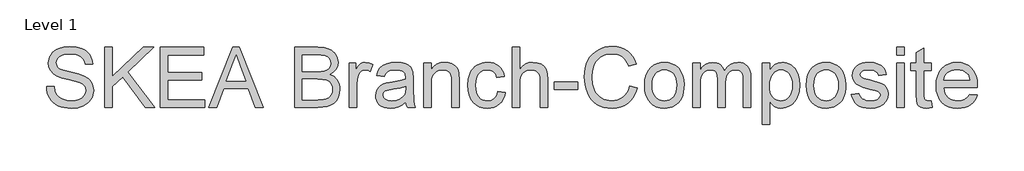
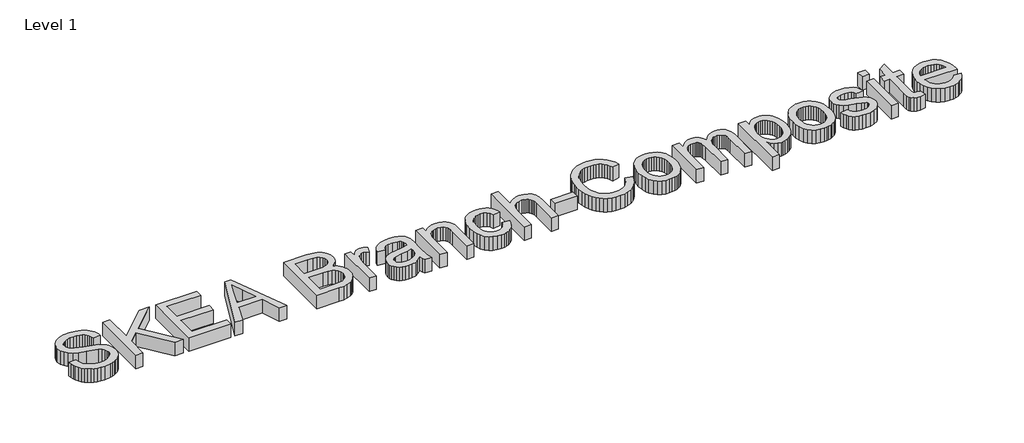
# One storey, part 9 of 29: 1 proxy.
"""IFC4 building model written with IfcOpenShell, lengths in millimetres."""

import ifcopenshell
import ifcopenshell.guid

model = None  # the IFC model being written
_history = None  # IfcOwnerHistory: only IFC2X3 demands one
_inside = {}  # id of a spatial element -> (the spatial element, [elements in it])
_under = {}  # id of a project, library or spatial element -> (it, [spatial elements below it])
_declared = {}  # id of a project -> (the project, [libraries it declares])
_typed = {}  # id of a type object -> (the type object, [elements of that type])
_made_of = {}  # id of a material, layer set ... -> (it, [elements and type objects made of it])


def new_model(schema):
    """Start an empty IFC model of exactly this schema.

    Asked for "IFC4X3", IfcOpenShell would pick the latest addendum, in which some entities
    have other attributes; the version numbers below select the first issue.
    IFC2X3 requires an IfcOwnerHistory on every rooted entity: one is made here for all.
    """
    global model, _history
    if schema == "IFC4X3":
        model = ifcopenshell.file(schema_version=(4, 3, 0, 0))
    else:
        model = ifcopenshell.file(schema=schema)
    _inside.clear()
    _under.clear()
    _declared.clear()
    _typed.clear()
    _made_of.clear()
    _history = None
    if model.schema == "IFC2X3":
        org = make("IfcOrganization", Name="unknown")
        user = make(
            "IfcPersonAndOrganization",
            ThePerson=make("IfcPerson", FamilyName="unknown"),
            TheOrganization=org,
        )
        app = make(
            "IfcApplication",
            ApplicationDeveloper=org,
            Version="unknown",
            ApplicationFullName="unknown",
            ApplicationIdentifier="unknown",
        )
        _history = make(
            "IfcOwnerHistory",
            OwningUser=user,
            OwningApplication=app,
            ChangeAction="ADDED",
            CreationDate=0,
        )
    return model


def make(cls, **values):
    """One entity of the class cls with the attributes given. An attribute that is None is left unset."""
    return model.create_entity(
        cls, **{name: value for name, value in values.items() if value is not None}
    )


def rooted(cls, **values):
    """An entity with a GlobalId (a new one), such as an element, a storey or a relation."""
    return make(cls, GlobalId=ifcopenshell.guid.new(), OwnerHistory=_history, **values)


def si_unit(unit_type, name, prefix=None):
    """IfcSIUnit, for example si_unit("LENGTHUNIT", "METRE", prefix="MILLI")."""
    return make("IfcSIUnit", UnitType=unit_type, Prefix=prefix, Name=name)


def assignment(units):
    """IfcUnitAssignment: the units of a project."""
    return None if units is None else make("IfcUnitAssignment", Units=units)


def point(xyz):
    """IfcCartesianPoint."""
    return None if xyz is None else make("IfcCartesianPoint", Coordinates=xyz)


def direction(xyz):
    """IfcDirection."""
    return None if xyz is None else make("IfcDirection", DirectionRatios=xyz)


def frame(location, z_axis=None, x_axis=None):
    """IfcAxis2Placement3D, a coordinate frame: its origin and axes. An axis left out is left unset."""
    return make(
        "IfcAxis2Placement3D",
        Location=point(location),
        Axis=direction(z_axis),
        RefDirection=direction(x_axis),
    )


def origin():
    """The frame at (0, 0, 0) with its axes left unset."""
    return frame((0.0, 0.0, 0.0))


def origin_with_axes():
    """The frame at (0, 0, 0) with the z axis (0, 0, 1) and the x axis (1, 0, 0) written out."""
    return frame((0.0, 0.0, 0.0), z_axis=(0.0, 0.0, 1.0), x_axis=(1.0, 0.0, 0.0))


def place(relative_to, where):
    """IfcLocalPlacement: puts the frame where relative to a parent placement (None: the world)."""
    return make(
        "IfcLocalPlacement", PlacementRelTo=relative_to, RelativePlacement=where
    )


def context(
    kind, dimensions, precision=None, world=None, true_north=None, identifier=None
):
    """IfcGeometricRepresentationContext, for example the 3D "Model" context."""
    return make(
        "IfcGeometricRepresentationContext",
        ContextIdentifier=identifier,
        ContextType=kind,
        CoordinateSpaceDimension=dimensions,
        Precision=precision,
        WorldCoordinateSystem=world,
        TrueNorth=true_north,
    )


def project(units=None, contexts=None):
    """IfcProject with its units and contexts."""
    return rooted(
        "IfcProject",
        Name="project",
        RepresentationContexts=contexts,
        UnitsInContext=assignment(units),
    )


def spatial(cls, under=None, at=None, **own):
    """A site, building, storey or space (cls), placed at a placement, below another one or the project."""
    s = rooted(cls, ObjectPlacement=at, **own)
    if under is not None:
        _under.setdefault(under.id(), (under, []))[1].append(s)
    return s


def polyline(points):
    """IfcPolyline through the points."""
    return make("IfcPolyline", Points=[point(p) for p in points])


def outline(outer, holes=None, kind="AREA"):
    """IfcArbitraryClosedProfileDef: a profile drawn as a closed curve; with holes, ...WithVoids."""
    if holes is None:
        return make("IfcArbitraryClosedProfileDef", ProfileType=kind, OuterCurve=outer)
    return make(
        "IfcArbitraryProfileDefWithVoids",
        ProfileType=kind,
        OuterCurve=outer,
        InnerCurves=holes,
    )


def extrude(swept, where, along, depth):
    """IfcExtrudedAreaSolid: the profile swept, set in the frame where, extruded along a direction by depth."""
    return make(
        "IfcExtrudedAreaSolid",
        SweptArea=swept,
        Position=where,
        ExtrudedDirection=direction(along),
        Depth=depth,
    )


def shape(context_of_items, identifier, shape_type, items):
    """IfcShapeRepresentation: the items that make up one representation, for example the "Body"."""
    return make(
        "IfcShapeRepresentation",
        ContextOfItems=context_of_items,
        RepresentationIdentifier=identifier,
        RepresentationType=shape_type,
        Items=items,
    )


def made_of(thing, what):
    """Note that an element or type object is made of a material, layer set ...; save() writes the relation."""
    if what is not None:
        _made_of.setdefault(what.id(), (what, []))[1].append(thing)
    return thing


def element(
    cls,
    number,
    at=None,
    inside=None,
    cuts=None,
    type_object=None,
    material=None,
    context=None,
    identifier="Body",
    shape_type=None,
    held_by="IfcProductDefinitionShape",
    body=None,
    shapes=None,
    **own,
):
    """One element of the class cls, such as IfcWall. Its Tag is "e" and its number.

    at: its placement. inside: the storey or other place that contains it. cuts: it is an
    opening in that element (IfcRelVoidsElement). A single representation is given by context,
    identifier, shape_type and body (its items); several are given by shapes. held_by: the class
    of the entity that holds the representations. save() writes the other relations.
    """
    e = rooted(cls, Tag="e%d" % number, ObjectPlacement=at, **own)
    if body is not None:
        shapes = [shape(context, identifier, shape_type, body)]
    if shapes is not None:
        e.Representation = make(held_by, Representations=shapes)
    if inside is not None:
        _inside.setdefault(inside.id(), (inside, []))[1].append(e)
    if cuts is not None:
        rooted(
            "IfcRelVoidsElement", RelatingBuildingElement=cuts, RelatedOpeningElement=e
        )
    if type_object is not None:
        _typed.setdefault(type_object.id(), (type_object, []))[1].append(e)
    return made_of(e, material)


def aggregate(whole, parts):
    """IfcRelAggregates: a whole, such as a stair, and the parts it consists of."""
    return rooted("IfcRelAggregates", RelatingObject=whole, RelatedObjects=parts)


def save(model, path):
    """Write the relations noted so far, then the file.

    IfcRelAggregates (storeys below a building ...), IfcRelContainedInSpatialStructure (elements
    in a storey), IfcRelDefinesByType, IfcRelAssociatesMaterial and IfcRelDeclares: one each for
    every whole, place, type object, material and project.
    """
    for whole, parts in _under.values():
        aggregate(whole, parts)
    for where, things in _inside.values():
        rooted(
            "IfcRelContainedInSpatialStructure",
            RelatedElements=things,
            RelatingStructure=where,
        )
    for kind, things in _typed.values():
        rooted("IfcRelDefinesByType", RelatedObjects=things, RelatingType=kind)
    for what, things in _made_of.values():
        rooted("IfcRelAssociatesMaterial", RelatedObjects=things, RelatingMaterial=what)
    for by, libraries in _declared.values():
        rooted("IfcRelDeclares", RelatingContext=by, RelatedDefinitions=libraries)
    model.write(path)


model = new_model("IFC4")

# Units and contexts
model_context = context("Model", 3, world=origin())
ifc_project = project(units=[si_unit("LENGTHUNIT", "METRE", prefix="MILLI")], contexts=[model_context])

# Site, building, storey
site = spatial("IfcSite", under=ifc_project)
building = spatial("IfcBuilding", under=site)
storey = spatial("IfcBuildingStorey", under=building, Name="Level 1", Elevation=0.0)

# Proxy
placement = place(None, origin())
element("IfcBuildingElementProxy", 1, Name="600mm Arial", ObjectType="600mm Arial", at=placement, inside=storey, context=model_context, shape_type="SweptSolid", body=[
    extrude(outline(polyline([(-4149.899531, -20145.9024363), (-4074.5572984, -20145.9024363), (-4065.9120715, -20187.7122251), (-4050.2770867, -20221.3182453), (-4025.8865105, -20247.98969), (-3990.9745091, -20268.9957519), (-3948.3001977, -20282.6257798), (-3900.6226911, -20287.1691225), (-3858.6473554, -20283.7294258), (-3821.8959441, -20273.4103358), (-3792.1158966, -20257.0763753), (-3771.0546524, -20235.5920667), (-3758.5282705, -20210.925579), (-3754.3528098, -20185.0450806), (-3757.4798068, -20159.8267698), (-3766.8607977, -20138.0297616), (-3785.917085, -20119.4333268), (-3818.0699714, -20103.8167361), (-3927.7723823, -20075.048364), (-3999.7852829, -20056.0104708), (-4045.8625028, -20037.8922825), (-4083.3680722, -20012.5452131), (-4109.9475464, -19981.8270665), (-4125.7848662, -19946.4000303), (-4131.0639729, -19906.9262922), (-4129.4314965, -19884.4900891), (-4124.5340675, -19862.7988469), (-4116.3716857, -19841.8525658), (-4104.9443512, -19821.6512458), (-4090.3808227, -19803.0180227), (-4072.8098589, -19786.7760326), (-4052.2314598, -19772.9252755), (-4028.6456254, -19761.4657514), (-3975.6338299, -19746.0698899), (-3916.9566517, -19740.937936), (-3853.3866429, -19746.3090131), (-3797.7628852, -19762.4222445), (-3773.4274913, -19774.4243946), (-3752.0719414, -19788.9465364), (-3733.6962358, -19805.9886698), (-3718.3003743, -19825.5507949), (-3706.0039186, -19847.0626946), (-3696.9264304, -19869.9541517), (-3691.0679096, -19894.2251664), (-3688.4283563, -19919.8757385), (-3763.7705889, -19919.8757385), (-3768.8105722, -19895.8346501), (-3777.6029519, -19874.9205587), (-3790.1477279, -19857.1334642), (-3806.4449003, -19842.4733667), (-3826.7979717, -19831.0138425), (-3851.5104447, -19822.8284681), (-3880.5823194, -19817.9172435), (-3914.0135957, -19816.2801686), (-3948.5117298, -19817.8988494), (-3977.9882747, -19822.7548917), (-4002.4432303, -19830.8482956), (-4021.8765967, -19842.1790611), (-4036.683847, -19855.799892), (-4047.2604544, -19870.7634921), (-4053.6064188, -19887.0698616), (-4055.7217403, -19904.7190003), (-4054.2226211, -19919.9033296), (-4049.7252637, -19933.6713133), (-4042.2296681, -19946.0229513), (-4031.7358342, -19956.9582436), (-4015.2179326, -19967.3141218), (-3989.2086755, -19977.7803645), (-3908.716095, -19999.0439438), (-3825.6483405, -20019.2406654), (-3775.3956599, -20036.8622129), (-3732.445437, -20064.1958452), (-3715.8401634, -20080.2630913), (-3702.4814485, -20097.9306241), (-3692.2129423, -20117.1064731), (-3684.878295, -20137.6986678), (-3679.0105772, -20183.1320942), (-3680.6982359, -20206.6995345), (-3685.7612118, -20229.5771961), (-3694.1995051, -20251.7650789), (-3706.0131156, -20273.263183), (-3720.9951099, -20293.2391754), (-3738.9385542, -20310.8607229), (-3759.8434486, -20326.1278257), (-3783.709793, -20339.0404838), (-3809.8432103, -20349.30899), (-3837.549323, -20356.6436372), (-3897.6796351, -20362.5113551), (-3936.2198727, -20360.9294625), (-3971.4951575, -20356.1837848), (-4003.5054896, -20348.2743219), (-4032.250869, -20337.2010738), (-4057.9060396, -20322.9456465), (-4080.6457454, -20305.4896458), (-4100.4699865, -20284.8330718), (-4117.3787627, -20260.9759244), (-4130.9995935, -20234.6907558), (-4140.9599985, -20206.7501183), (-4147.2599777, -20177.1540118), (-4149.899531, -20145.9024363)])), origin_with_axes(), (0.0, 0.0, 1.0), 150.0),
    extrude(outline(polyline([(-3565.9972283, -20353.093576), (-3565.9972283, -19750.3557151), (-3490.6549957, -19750.3557151), (-3490.6549957, -20045.3970752), (-3181.6341197, -19750.3557151), (-3076.2727163, -19750.3557151), (-3335.7030993, -19998.161027), (-3066.8549372, -20353.093576), (-3158.9725888, -20353.093576), (-3389.119565, -20049.0758952), (-3490.6549957, -20145.9024363), (-3490.6549957, -20353.093576), (-3565.9972283, -20353.093576)])), origin_with_axes(), (0.0, 0.0, 1.0), 150.0),
    extrude(outline(polyline([(-3010.3482628, -20353.093576), (-3010.3482628, -19750.3557151), (-2577.1304253, -19750.3557151), (-2577.1304253, -19825.6979477), (-2935.0060302, -19825.6979477), (-2935.0060302, -20004.6357502), (-2595.9659834, -20004.6357502), (-2595.9659834, -20079.9779828), (-2935.0060302, -20079.9779828), (-2935.0060302, -20277.7513434), (-2567.7126462, -20277.7513434), (-2567.7126462, -20353.093576), (-3010.3482628, -20353.093576)])), origin_with_axes(), (0.0, 0.0, 1.0), 150.0),
    extrude(outline(polyline([(-2524.8911819, -20353.093576), (-2284.2963571, -19750.3557151), (-2220.1377371, -19750.3557151), (-1979.5429123, -20353.093576), (-2059.152576, -20353.093576), (-2128.1672383, -20164.7379945), (-2376.4140087, -20164.7379945), (-2445.2815182, -20353.093576), (-2524.8911819, -20353.093576)]), holes=[polyline([(-2348.7492826, -20089.3957619), (-2155.6848116, -20089.3957619), (-2209.9841941, -19941.2128942), (-2252.2170471, -19825.6979477), (-2289.7410106, -19928.263448), (-2348.7492826, -20089.3957619)])]), origin_with_axes(), (0.0, 0.0, 1.0), 150.0),
    extrude(outline(polyline([(-1663.6058548, -20353.093576), (-1663.6058548, -19750.3557151), (-1433.6060314, -19750.3557151), (-1370.3487224, -19754.7886931), (-1320.9605645, -19768.0876273), (-1300.8834046, -19778.1446013), (-1283.1055072, -19790.5836113), (-1267.6268723, -19805.4046571), (-1254.4474998, -19822.6077389), (-1236.4028879, -19860.2788553), (-1230.3880173, -19899.7158051), (-1235.4463947, -19936.007364), (-1250.621527, -19970.128419), (-1276.0237788, -19999.9820429), (-1311.7635146, -20023.4713083), (-1289.0238088, -20033.1649989), (-1269.0708091, -20045.7649572), (-1251.9045155, -20061.2711833), (-1237.524928, -20079.6836772), (-1226.1619729, -20100.4414188), (-1218.0455764, -20122.983388), (-1213.1757385, -20147.3095849), (-1211.5524592, -20173.4200095), (-1215.9854372, -20215.4505275), (-1229.2843713, -20254.4276249), (-1249.131605, -20287.5737927), (-1273.2094815, -20312.1115217), (-1302.6952235, -20329.8802221), (-1338.7660531, -20342.7193037), (-1382.5991928, -20350.5000079), (-1435.371865, -20353.093576), (-1663.6058548, -20353.093576)]), holes=[polyline([(-1588.2636222, -20277.7513434), (-1433.7531842, -20277.7513434), (-1377.835121, -20274.8082874), (-1351.8810462, -20268.278382), (-1330.5254964, -20258.4007504), (-1313.1614662, -20244.2556877), (-1299.1819504, -20224.9234889), (-1289.9665064, -20201.2686766), (-1286.8946918, -20174.1557735), (-1290.4999353, -20142.6650748), (-1301.315666, -20115.5889599), (-1320.2064064, -20094.4173511), (-1348.0366794, -20080.6401704), (-1387.4552351, -20073.0801954), (-1441.1108241, -20070.5602037), (-1588.2636222, -20070.5602037), (-1588.2636222, -20277.7513434)]), polyline([(-1588.2636222, -19995.2179711), (-1450.675756, -19995.2179711), (-1402.556791, -19993.5992903), (-1370.3303283, -19988.743248), (-1342.2057497, -19977.5780294), (-1321.9906341, -19960.8577927), (-1309.795346, -19938.8400553), (-1305.7302499, -19911.7823346), (-1309.5194345, -19885.5155601), (-1320.8869881, -19862.6333), (-1339.3178761, -19844.7726292), (-1364.2970636, -19833.5706224), (-1402.6303674, -19827.6661164), (-1461.1236047, -19825.6979477), (-1588.2636222, -19825.6979477), (-1588.2636222, -19995.2179711)])]), origin_with_axes(), (0.0, 0.0, 1.0), 150.0),
    extrude(outline(polyline([(-1117.3746684, -20353.093576), (-1117.3746684, -19910.4579594), (-1051.4502149, -19910.4579594), (-1051.4502149, -19975.9409545), (-1027.0964268, -19937.9755326), (-1004.6556251, -19915.6083073), (-982.141247, -19904.6822121), (-957.5667297, -19901.0401803), (-920.0427662, -19906.8527158), (-881.9301915, -19924.2903224), (-907.0933199, -19991.8334567), (-933.5808236, -19980.2451739), (-960.0683273, -19976.3824129), (-982.5643113, -19980.0980211), (-1002.6690623, -19991.2448455), (-1018.9110524, -20008.9767577), (-1029.8187535, -20032.447629), (-1038.9790152, -20074.5333292), (-1042.0324358, -20120.4450022), (-1042.0324358, -20353.093576), (-1117.3746684, -20353.093576)])), origin_with_axes(), (0.0, 0.0, 1.0), 150.0),
    extrude(outline(polyline([(-552.3079238, -20296.5869015), (-588.305177, -20327.4522009), (-625.369288, -20347.6489225), (-664.3463854, -20358.7957469), (-706.0825978, -20362.5113551), (-739.6288372, -20360.2764719), (-769.0456013, -20353.5718226), (-794.3328899, -20342.397407), (-815.4907031, -20326.7532251), (-832.1971443, -20307.6325584), (-844.1303165, -20286.0286883), (-851.2902198, -20261.9416146), (-853.6768542, -20235.3713375), (-850.0716107, -20204.1381561), (-839.25588, -20175.7744543), (-822.5724316, -20151.4942426), (-801.3640345, -20132.5115317), (-776.4400294, -20118.1641339), (-748.6097564, -20107.7898616), (-683.4210669, -20096.4590962), (-606.3865771, -20084.5397195), (-552.7493822, -20070.5602037), (-552.3079238, -20053.7847847), (-557.4950599, -20020.1603704), (-563.9789801, -20007.7075648), (-573.0564683, -19998.161027), (-588.7466354, -19988.6328834), (-607.8581051, -19981.8270665), (-656.344952, -19976.3824129), (-701.2265554, -19980.0060506), (-732.5701014, -19990.8769635), (-753.9440454, -20010.9817146), (-768.9168426, -20042.3068665), (-844.2590752, -20032.8890874), (-831.1808702, -19991.6863039), (-811.6647304, -19959.3126884), (-783.8896398, -19934.5542301), (-746.0345825, -19916.1969185), (-699.7366334, -19904.8293649), (-646.6328674, -19901.0401803), (-595.6996051, -19904.3879065), (-555.3245562, -19914.4310849), (-524.8823211, -19929.5326408), (-503.7475004, -19948.0554993), (-489.7311964, -19970.9561535), (-480.6445111, -19999.1910966), (-476.9656912, -20065.1155502), (-476.9656912, -20158.8518825), (-473.1397184, -20289.7442964), (-467.4743357, -20322.0995179), (-458.130133, -20353.093576), (-533.4723656, -20353.093576), (-545.5388951, -20326.9003779), (-552.3079238, -20296.5869015)]), holes=[polyline([(-552.3079238, -20145.9024363), (-602.9284863, -20158.4472123), (-673.856135, -20169.0054256), (-738.6769426, -20181.2191078), (-755.544332, -20189.5700291), (-768.0339258, -20201.0847356), (-775.7594477, -20214.8803104), (-778.3346216, -20230.0738368), (-772.7244212, -20252.4778503), (-755.8938199, -20270.8351619), (-728.2106998, -20283.0856323), (-690.0429428, -20287.1691225), (-649.5759233, -20282.662568), (-613.8177934, -20269.1429047), (-584.8286922, -20249.2220947), (-564.6687588, -20225.5121001), (-555.7292264, -20201.0847356), (-552.7493822, -20167.239592), (-552.3079238, -20145.9024363)])]), origin_with_axes(), (0.0, 0.0, 1.0), 150.0),
    extrude(outline(polyline([(-373.3701213, -20353.093576), (-373.3701213, -19910.4579594), (-298.0278887, -19910.4579594), (-298.0278887, -19972.2621346), (-271.8530848, -19941.1025296), (-240.4175683, -19918.8456689), (-203.7213393, -19905.4915525), (-161.7643977, -19901.0401803), (-124.6267103, -19904.6270298), (-90.6160199, -19915.3875781), (-62.252318, -19931.9790561), (-42.0555965, -19953.0586944), (-28.3519922, -19978.5713108), (-19.467642, -20008.4617229), (-15.4945164, -20081.302358), (-15.4945164, -20353.093576), (-90.836749, -20353.093576), (-90.836749, -20091.455901), (-93.0072528, -20052.4971977), (-99.5187641, -20024.7956835), (-111.5301113, -20004.9484499), (-130.2001225, -19989.5525884), (-154.1308463, -19979.6749568), (-181.9243311, -19976.3824129), (-204.8019926, -19978.23102), (-226.0517764, -19983.776841), (-245.6736823, -19993.0198762), (-263.6677104, -20005.9601253), (-278.7002884, -20024.0691166), (-289.4378441, -20048.8183778), (-295.8803776, -20080.207909), (-298.0278887, -20118.2377103), (-298.0278887, -20353.093576), (-373.3701213, -20353.093576)])), origin_with_axes(), (0.0, 0.0, 1.0), 150.0),
    extrude(outline(polyline([(370.6344257, -20192.9913317), (445.9766583, -20202.4091108), (437.7820869, -20237.9603071), (424.9705964, -20269.4188162), (407.5421869, -20296.7846381), (385.4968583, -20320.0577728), (359.7635127, -20338.6312151), (331.2710522, -20351.8979595), (300.0194767, -20359.8580062), (266.0087863, -20362.5113551), (223.7529406, -20358.8095425), (185.8656936, -20347.7041048), (152.3470453, -20329.1950419), (123.1969957, -20303.2823538), (99.6019643, -20270.4534843), (82.7483704, -20231.1958769), (72.636214, -20185.5095316), (69.2654953, -20133.3944485), (75.0228485, -20066.3479549), (82.21954, -20036.1770327), (92.2949082, -20008.2409937), (105.3179308, -19983.1008579), (121.3575858, -19961.3176452), (140.4138731, -19942.8913558), (162.4867928, -19927.8219896), (186.578465, -19916.104948), (211.6910097, -19907.7356326), (237.8244269, -19902.7140434), (264.9787167, -19901.0401803), (298.4053945, -19903.3394428), (328.640696, -19910.2372302), (355.6846211, -19921.7335425), (379.53717, -19937.8283798), (399.7936723, -19958.1538601), (416.049458, -19982.3421013), (428.304527, -20010.3931034), (436.5588792, -20042.3068665), (361.2166466, -20051.7246455), (347.5498305, -20018.8543893), (326.2678571, -19995.2915475), (298.5479487, -19981.1096966), (265.5673279, -19976.3824129), (239.9673395, -19978.7092666), (216.8781458, -19985.6898274), (196.2997467, -19997.3240955), (178.2321422, -20013.6120708), (163.5214609, -20034.9308325), (153.0138315, -20061.6574594), (146.7092538, -20093.7919517), (144.6077279, -20131.3343093), (146.6632685, -20169.4422855), (152.8298905, -20201.9492583), (163.1075937, -20228.8552277), (177.4963782, -20250.1601937), (195.2052978, -20266.3516001), (215.443406, -20277.9168903), (238.210703, -20284.8560644), (263.5071887, -20287.1691225), (302.5210743, -20281.3933751), (319.3930623, -20274.173691), (334.5084138, -20264.0661332), (347.4440644, -20250.9603371), (357.77695, -20234.7459381), (365.5070704, -20215.4229363), (370.6344257, -20192.9913317)])), origin_with_axes(), (0.0, 0.0, 1.0), 150.0),
    extrude(outline(polyline([(511.9011119, -20353.093576), (511.9011119, -19750.3557151), (587.2433445, -19750.3557151), (587.2433445, -19971.967829), (614.9172675, -19940.9369827), (645.9940991, -19918.7720925), (680.4738391, -19905.4731584), (718.3564875, -19901.0401803), (763.8634903, -19905.8778286), (802.9693464, -19920.3907733), (833.7610694, -19943.4385803), (854.325673, -19973.8808154), (865.9139558, -20015.7089982), (869.7767168, -20072.9146485), (869.7767168, -20353.093576), (794.4344841, -20353.093576), (794.4344841, -20080.7137468), (792.935365, -20055.2747068), (788.4380076, -20033.551275), (780.942412, -20015.5434513), (770.4485781, -20001.2512358), (757.2048262, -19990.3711258), (741.4594768, -19982.5996187), (723.2125299, -19977.9367144), (702.4639854, -19976.3824129), (670.6237987, -19980.5762677), (640.7333866, -19993.1578319), (615.9749283, -20012.9130951), (599.5306031, -20038.6280465), (590.3151591, -20072.8042839), (587.2433445, -20117.9434047), (587.2433445, -20353.093576), (511.9011119, -20353.093576)])), origin_with_axes(), (0.0, 0.0, 1.0), 150.0),
    extrude(outline(polyline([(935.7011703, -20174.1557735), (935.7011703, -20098.8135409), (1171.1456472, -20098.8135409), (1171.1456472, -20174.1557735), (935.7011703, -20174.1557735)])), origin_with_axes(), (0.0, 0.0, 1.0), 150.0),
    extrude(outline(polyline([(1689.1234964, -20138.839102), (1764.465729, -20158.2632713), (1749.5573112, -20205.117642), (1729.7008805, -20246.0583095), (1704.896437, -20281.085274), (1675.1439806, -20310.1985354), (1641.114896, -20333.085394), (1603.4805679, -20349.4331501), (1562.2409963, -20359.2418038), (1517.3961811, -20362.5113551), (1471.4523184, -20360.0373487), (1430.0058131, -20352.6153294), (1393.0566652, -20340.2452973), (1360.6048747, -20322.9272524), (1332.2043847, -20300.918712), (1307.4091382, -20274.4771936), (1286.2191353, -20243.6026972), (1268.6343759, -20208.2952227), (1254.8250055, -20170.0814804), (1244.9611695, -20130.4881807), (1239.0428679, -20089.5153235), (1237.0701007, -20047.1629088), (1239.3003853, -20001.7202854), (1245.9912391, -19959.2759002), (1257.1426621, -19919.8297532), (1272.7546543, -19883.3818446), (1292.4777277, -19850.5345809), (1315.9623946, -19821.8903691), (1343.2086549, -19797.449209), (1374.2165085, -19777.2111007), (1407.9328934, -19761.3415912), (1443.3047472, -19750.0062272), (1480.3320701, -19743.2050088), (1519.0148618, -19740.937936), (1562.1076391, -19743.8717949), (1601.6227639, -19752.6733717), (1637.5602363, -19767.3426662), (1669.9200563, -19787.8796786), (1698.168795, -19813.7417829), (1721.7730235, -19844.3863531), (1740.7327418, -19879.8133892), (1755.04795, -19920.0228913), (1679.7057173, -19937.9755326), (1667.841523, -19908.3472364), (1653.5860957, -19883.0323567), (1636.9394354, -19862.0308933), (1617.9015421, -19845.3428463), (1596.3620513, -19832.6279248), (1572.2105983, -19823.545838), (1545.4471832, -19818.096586), (1516.0718059, -19816.2801686), (1482.2726476, -19818.2943226), (1451.3613629, -19824.3367843), (1423.337952, -19834.4075539), (1398.2024146, -19848.5066314), (1376.2720492, -19865.9994203), (1357.8641539, -19886.2513241), (1342.9787286, -19909.2623429), (1331.6157735, -19935.0324767), (1317.2131934, -19990.1779878), (1312.4123334, -20047.015756), (1318.0961102, -20116.6190295), (1325.2008312, -20147.8889991), (1335.1474407, -20176.8045239), (1348.0968869, -20202.7907883), (1364.2101183, -20225.2729768), (1383.4871348, -20244.2510892), (1405.9279365, -20259.7251256), (1430.442673, -20271.7318742), (1455.9414938, -20280.3081232), (1482.4243989, -20285.4538727), (1509.8913884, -20287.1691225), (1542.6466815, -20284.8330718), (1572.7808154, -20277.8249198), (1600.2937902, -20266.1446664), (1625.1856057, -20249.7923117), (1646.8676507, -20228.8414321), (1664.7513142, -20203.365604), (1678.8365961, -20173.3648272), (1689.1234964, -20138.839102)])), origin_with_axes(), (0.0, 0.0, 1.0), 150.0),
    extrude(outline(polyline([(1839.8079616, -20131.7757677), (1843.8822547, -20074.4505558), (1856.105134, -20025.0532009), (1876.4765995, -19983.583703), (1904.9966512, -19950.0420621), (1933.7098409, -19928.6037388), (1965.4028748, -19913.2906508), (2000.0757528, -19904.1027979), (2037.728475, -19901.0401803), (2079.294542, -19904.769584), (2116.8782863, -19915.9577952), (2150.479708, -19934.6048139), (2180.0988072, -19960.7106399), (2204.2732528, -19993.3923567), (2221.5407139, -20031.7670473), (2231.9011906, -20075.8347118), (2235.3546829, -20125.5953502), (2233.8279726, -20165.9244139), (2229.2478417, -20201.710135), (2221.6142903, -20232.9525134), (2210.9273184, -20259.6515492), (2197.3202831, -20282.7131518), (2180.9265417, -20303.0432305), (2161.7460941, -20320.6417855), (2139.7789405, -20335.5088166), (2115.8804064, -20347.3224272), (2090.9058174, -20355.7607205), (2064.8551737, -20360.8236964), (2037.728475, -20362.5113551), (1995.5554028, -20358.7957469), (1957.6221706, -20347.6489225), (1923.9287784, -20329.0708817), (1894.4752261, -20303.0616246), (1870.5582979, -20270.0626097), (1853.4747778, -20230.5152952), (1843.2246657, -20184.4196812), (1839.8079616, -20131.7757677)]), holes=[polyline([(1915.1501943, -20131.6286149), (1917.3298951, -20168.1730926), (1923.8689975, -20199.8155427), (1934.7675016, -20226.5559652), (1950.0254074, -20248.3943602), (1968.5850541, -20265.3583187), (1989.3887809, -20277.4754319), (2012.4365879, -20284.7456998), (2037.728475, -20287.1691225), (2062.8916035, -20284.7319042), (2085.84744, -20277.4202496), (2106.5959845, -20265.2341585), (2125.1372371, -20248.173631), (2140.3951428, -20226.1191054), (2151.293647, -20198.95102), (2157.8327494, -20166.6693749), (2160.0124502, -20129.2741701), (2157.8189538, -20093.8885207), (2151.2384647, -20063.0738051), (2140.2709827, -20036.8300233), (2124.9165079, -20015.1571752), (2106.3062775, -19998.1932167), (2085.5715285, -19986.0761035), (2062.712261, -19978.8058356), (2037.728475, -19976.3824129), (2012.4365879, -19978.7966385), (1989.3887809, -19986.0393153), (1968.5850541, -19998.1104433), (1950.0254074, -20015.0100224), (1934.7675016, -20036.784038), (1923.8689975, -20063.4784753), (1917.3298951, -20095.0933343), (1915.1501943, -20131.6286149)])]), origin_with_axes(), (0.0, 0.0, 1.0), 150.0),
    extrude(outline(polyline([(2320.1146945, -20353.093576), (2320.1146945, -19910.4579594), (2395.4569272, -19910.4579594), (2395.4569272, -19983.2985944), (2418.1184581, -19949.839727), (2447.2547121, -19923.6281348), (2481.8724078, -19906.6871689), (2520.9782639, -19901.0401803), (2562.8800232, -19906.7975335), (2580.7131029, -19913.9942251), (2596.4676493, -19924.0695932), (2621.5572014, -19951.7159252), (2637.9647384, -19988.5960952), (2665.4271293, -19950.2903824), (2696.7522812, -19922.929159), (2731.940194, -19906.512425), (2770.9908678, -19901.0401803), (2801.1525929, -19903.3164502), (2827.626301, -19910.1452597), (2850.4119921, -19921.5266089), (2869.5096661, -19937.4604978), (2884.6066235, -19958.1308674), (2895.3901645, -19983.7216587), (2901.8602891, -20014.2328717), (2904.0169973, -20049.6645064), (2904.0169973, -20353.093576), (2828.6747647, -20353.093576), (2828.6747647, -20082.0381219), (2826.9273252, -20044.4589761), (2821.6850068, -20019.1303008), (2811.8625575, -20001.7846647), (2796.3747255, -19988.1546368), (2776.4539155, -19979.3254689), (2753.3325321, -19976.3824129), (2731.9815808, -19978.2678082), (2712.5160247, -19983.9239938), (2694.9358639, -19993.35097), (2679.2410982, -20006.5487365), (2666.3330387, -20023.9035697), (2657.1129962, -20045.8017454), (2651.5809707, -20072.2432638), (2649.7369622, -20103.2281249), (2649.7369622, -20353.093576), (2574.3947296, -20353.093576), (2574.3947296, -20073.6504125), (2570.035328, -20031.0496774), (2564.5860759, -20014.3294407), (2556.957123, -20000.6626246), (2546.8449667, -19990.040032), (2533.9461042, -19982.4524659), (2518.2605357, -19977.8999262), (2499.788261, -19976.3824129), (2470.7623716, -19980.4291149), (2444.0173505, -19992.5692207), (2421.9444308, -20012.5084249), (2406.9348454, -20039.9524217), (2398.3264067, -20078.0282082), (2395.4569272, -20129.8627813), (2395.4569272, -20353.093576), (2320.1146945, -20353.093576)])), origin_with_axes(), (0.0, 0.0, 1.0), 150.0),
    extrude(outline(polyline([(3017.0303462, -20522.6135994), (3017.0303462, -19910.4579594), (3092.3725788, -19910.4579594), (3092.3725788, -19984.328664), (3116.9470961, -19947.8899524), (3144.4646693, -19921.8623012), (3176.5439793, -19906.2457106), (3214.8037068, -19901.0401803), (3241.0796783, -19902.8611962), (3265.7553631, -19908.3242438), (3288.8307613, -19917.4293232), (3310.3058728, -19930.1764343), (3329.711648, -19946.2344834), (3346.5790375, -19965.2723767), (3360.9080412, -19987.2901141), (3372.6986591, -20012.2876957), (3388.4807967, -20067.8010887), (3393.7415093, -20128.3912533), (3387.800215, -20192.8257848), (3380.3735973, -20222.4908692), (3369.9763324, -20250.4544993), (3356.7509747, -20275.9855098), (3340.8400784, -20298.3527351), (3322.2436435, -20317.5561753), (3300.9616701, -20333.5958302), (3278.0380233, -20346.2463724), (3254.5165682, -20355.2824739), (3230.3973049, -20360.7041348), (3205.6802333, -20362.5113551), (3171.0441435, -20357.6737068), (3140.1236618, -20343.1607621), (3113.6545522, -20321.2533893), (3092.3725788, -20294.2324568), (3092.3725788, -20522.6135994), (3017.0303462, -20522.6135994)]), holes=[polyline([(3092.3725788, -20135.3074348), (3094.4097254, -20171.6173878), (3100.521165, -20202.8505692), (3110.7068978, -20229.006979), (3124.9669236, -20250.0866173), (3142.1332172, -20266.3102133), (3161.0377532, -20277.8984962), (3181.6805317, -20284.8514659), (3204.0615526, -20287.1691225), (3226.7644702, -20284.7686924), (3247.7843277, -20277.5674024), (3267.1211251, -20265.5652523), (3284.7748623, -20248.7622422), (3299.4855436, -20226.9192487), (3309.9931731, -20199.7971486), (3316.2977508, -20167.3959419), (3318.3992767, -20129.7156285), (3316.3483345, -20093.7183753), (3310.1955082, -20062.5403762), (3299.9407975, -20036.1816312), (3285.5842027, -20014.6421404), (3268.3765224, -19997.9035097), (3249.5685554, -19985.9473448), (3229.1603017, -19978.7736459), (3207.1517613, -19976.3824129), (3185.2121988, -19978.9253972), (3164.5694204, -19986.5543501), (3145.223426, -19999.2692716), (3127.1742156, -20017.0701616), (3111.9484995, -20039.7178969), (3101.072988, -20066.9733542), (3094.5476811, -20098.8365336), (3092.3725788, -20135.3074348)])]), origin_with_axes(), (0.0, 0.0, 1.0), 150.0),
    extrude(outline(polyline([(3459.6659628, -20131.7757677), (3463.7402559, -20074.4505558), (3475.9631352, -20025.0532009), (3496.3346007, -19983.583703), (3524.8546523, -19950.0420621), (3553.5678421, -19928.6037388), (3585.260876, -19913.2906508), (3619.933754, -19904.1027979), (3657.5864762, -19901.0401803), (3699.1525431, -19904.769584), (3736.7362875, -19915.9577952), (3770.3377092, -19934.6048139), (3799.9568083, -19960.7106399), (3824.1312539, -19993.3923567), (3841.3987151, -20031.7670473), (3851.7591918, -20075.8347118), (3855.212684, -20125.5953502), (3853.6859737, -20165.9244139), (3849.1058429, -20201.710135), (3841.4722915, -20232.9525134), (3830.7853195, -20259.6515492), (3817.1782842, -20282.7131518), (3800.7845428, -20303.0432305), (3781.6040953, -20320.6417855), (3759.6369417, -20335.5088166), (3735.7384076, -20347.3224272), (3710.7638186, -20355.7607205), (3684.7131748, -20360.8236964), (3657.5864762, -20362.5113551), (3615.413404, -20358.7957469), (3577.4801718, -20347.6489225), (3543.7867795, -20329.0708817), (3514.3332273, -20303.0616246), (3490.4162991, -20270.0626097), (3473.3327789, -20230.5152952), (3463.0826668, -20184.4196812), (3459.6659628, -20131.7757677)]), holes=[polyline([(3535.0081954, -20131.6286149), (3537.1878962, -20168.1730926), (3543.7269987, -20199.8155427), (3554.6255028, -20226.5559652), (3569.8834086, -20248.3943602), (3588.4430552, -20265.3583187), (3609.246782, -20277.4754319), (3632.294589, -20284.7456998), (3657.5864762, -20287.1691225), (3682.7496047, -20284.7319042), (3705.7054412, -20277.4202496), (3726.4539857, -20265.2341585), (3744.9952383, -20248.173631), (3760.253144, -20226.1191054), (3771.1516481, -20198.95102), (3777.6907506, -20166.6693749), (3779.8704514, -20129.2741701), (3777.676955, -20093.8885207), (3771.0964658, -20063.0738051), (3760.1289838, -20036.8300233), (3744.7745091, -20015.1571752), (3726.1642786, -19998.1932167), (3705.4295297, -19986.0761035), (3682.5702622, -19978.8058356), (3657.5864762, -19976.3824129), (3632.294589, -19978.7966385), (3609.246782, -19986.0393153), (3588.4430552, -19998.1104433), (3569.8834086, -20015.0100224), (3554.6255028, -20036.784038), (3543.7269987, -20063.4784753), (3537.1878962, -20095.0933343), (3535.0081954, -20131.6286149)])]), origin_with_axes(), (0.0, 0.0, 1.0), 150.0),
    extrude(outline(polyline([(3911.7193585, -20221.2446689), (3987.0615911, -20211.8268898), (3991.6141308, -20229.006979), (3998.9441795, -20244.0533526), (4009.0517374, -20256.9660107), (4021.9368042, -20267.7449531), (4037.6361684, -20276.2430272), (4056.186618, -20282.3130801), (4101.8407736, -20287.1691225), (4146.9431062, -20282.7177503), (4164.4726833, -20277.1535351), (4178.6545342, -20269.3636339), (4197.4165159, -20250.0130409), (4202.1070114, -20239.1789162), (4203.6705098, -20227.5722392), (4202.0978143, -20217.4003021), (4197.3797277, -20208.3687991), (4178.5073814, -20193.7270957), (4150.2908323, -20184.1621638), (4100.9578568, -20172.2427872), (4032.2007119, -20152.3587653), (3987.5030495, -20135.3810112), (3958.7898598, -20116.8581528), (3937.9861329, -20092.3388178), (3925.3493864, -20063.3865048), (3921.1371376, -20031.5647122), (3924.5216519, -20002.3732759), (3934.675195, -19975.4259197), (3950.6780618, -19951.7895016), (3971.6105473, -19932.5308791), (3992.4142741, -19920.4091674), (4019.5087831, -19910.2372302), (4050.833935, -19903.3394428), (4084.3295906, -19901.0401803), (4133.3682606, -19904.7373944), (4176.0057838, -19915.8290365), (4210.2923858, -19933.2298549), (4234.2782918, -19955.8545976), (4250.170794, -19985.3771277), (4260.1771843, -20023.4713083), (4184.8349517, -20032.8890874), (4175.3252021, -20009.1790928), (4156.5080381, -19991.3184219), (4128.1995185, -19980.1164152), (4090.2157025, -19976.3824129), (4046.9527799, -19979.9508683), (4018.1108315, -19990.6562343), (4001.8872355, -20006.1072781), (3996.4793702, -20023.9127667), (3998.7234503, -20035.5010496), (4005.4556908, -20045.8385336), (4016.9703973, -20055.0723717), (4033.5618753, -20062.4667998), (4098.4562592, -20078.5064548), (4209.041587, -20113.9702791), (4238.2514174, -20130.9296391), (4260.3979135, -20154.142993), (4274.3590352, -20183.6839172), (4279.0127425, -20219.6259881), (4273.5496948, -20256.7820697), (4257.1605519, -20291.7308592), (4230.4707132, -20321.7316359), (4194.105578, -20344.0436789), (4150.1804677, -20357.894436), (4100.810704, -20362.5113551), (4060.2609111, -20360.285669), (4024.843072, -20353.6086108), (3994.5571867, -20342.4801804), (3969.4032553, -20326.9003779), (3948.8570459, -20306.9427797), (3932.3943266, -20282.6809621), (3920.0150975, -20254.1149252), (3911.7193585, -20221.2446689)])), origin_with_axes(), (0.0, 0.0, 1.0), 150.0),
    extrude(outline(polyline([(4363.7727541, -20353.093576), (4363.7727541, -19910.4579594), (4439.1149868, -19910.4579594), (4439.1149868, -20353.093576), (4363.7727541, -20353.093576)])), origin_with_axes(), (0.0, 0.0, 1.0), 150.0),
    extrude(outline(polyline([(4363.7727541, -19825.6979477), (4363.7727541, -19750.3557151), (4439.1149868, -19750.3557151), (4439.1149868, -19825.6979477), (4363.7727541, -19825.6979477)])), origin_with_axes(), (0.0, 0.0, 1.0), 150.0),
    extrude(outline(polyline([(4712.23058, -20290.2593312), (4721.6483591, -20355.300868), (4665.2888374, -20362.5113551), (4629.1260373, -20359.3843581), (4602.160287, -20350.0033672), (4583.1039997, -20335.5456048), (4570.6695882, -20317.1882933), (4563.8269831, -20285.6608063), (4561.5461148, -20231.6925176), (4561.5461148, -19985.800192), (4505.0394403, -19985.800192), (4505.0394403, -19910.4579594), (4561.5461148, -19910.4579594), (4561.5461148, -19802.889264), (4636.8883474, -19758.5962718), (4636.8883474, -19910.4579594), (4712.23058, -19910.4579594), (4712.23058, -19985.800192), (4636.8883474, -19985.800192), (4636.8883474, -20229.4852256), (4640.8614729, -20268.3335643), (4653.7373427, -20282.0923509), (4664.6082557, -20285.8999296), (4679.415506, -20287.1691225), (4712.23058, -20290.2593312)])), origin_with_axes(), (0.0, 0.0, 1.0), 150.0),
    extrude(outline(polyline([(5097.4766053, -20221.2446689), (5171.34731, -20230.662448), (5160.021143, -20260.2493575), (5144.7310476, -20286.3229939), (5125.4770237, -20308.8833572), (5102.2590713, -20327.9304475), (5075.3163136, -20343.0595946), (5044.8878741, -20353.8661282), (5010.9737527, -20360.3500483), (4973.5739494, -20362.5113551), (4926.8253448, -20358.7819513), (4885.1719059, -20347.5937402), (4848.6136326, -20328.9467215), (4817.150525, -20302.8408955), (4791.8494408, -20270.0028289), (4773.7772378, -20231.1590887), (4762.933916, -20186.309675), (4759.3194754, -20135.4545876), (4762.9707042, -20082.8750535), (4773.9243906, -20036.5311191), (4792.1805346, -19996.4227846), (4817.7391362, -19962.5500499), (4849.1194704, -19935.639482), (4884.8408121, -19916.4176477), (4924.9031614, -19904.8845472), (4969.3065182, -19901.0401803), (5012.2797338, -19904.8753501), (5051.141868, -19916.3808595), (5085.892921, -19935.5567085), (5116.5328927, -19962.4028971), (5141.5442698, -19996.2020554), (5159.4095392, -20036.2368135), (5170.1287009, -20082.5071715), (5173.7017547, -20135.0131293), (5173.2602963, -20155.3202154), (4834.661708, -20155.3202154), (4839.0257081, -20185.3853714), (4847.7031247, -20211.7165252), (4860.6939577, -20234.3136768), (4877.998207, -20253.1768261), (4898.6593796, -20268.0484558), (4921.7209821, -20278.6710484), (4947.1830147, -20285.0446039), (4975.0454773, -20287.1691225), (5015.1446148, -20283.2327851), (5048.916182, -20271.4237731), (5076.3601788, -20251.0063223), (5097.4766053, -20221.2446689)]), holes=[polyline([(4834.661708, -20079.9779828), (5098.3595221, -20079.9779828), (5088.1691909, -20040.1731509), (5079.4044023, -20024.519772), (5068.1931985, -20011.6990845), (5047.6469891, -19996.2480407), (5024.2680883, -19985.2115808), (4998.0564961, -19978.5897049), (4969.0122126, -19976.3824129), (4942.5201104, -19978.143648), (4918.2261032, -19983.4273531), (4896.1301908, -19992.2335284), (4876.2323734, -20004.5621738), (4859.5351294, -20019.8430721), (4847.0409371, -20037.5060064), (4838.7497966, -20057.5509766), (4834.661708, -20079.9779828)])]), origin_with_axes(), (0.0, 0.0, 1.0), 150.0),
])

save(model, "model.ifc")
